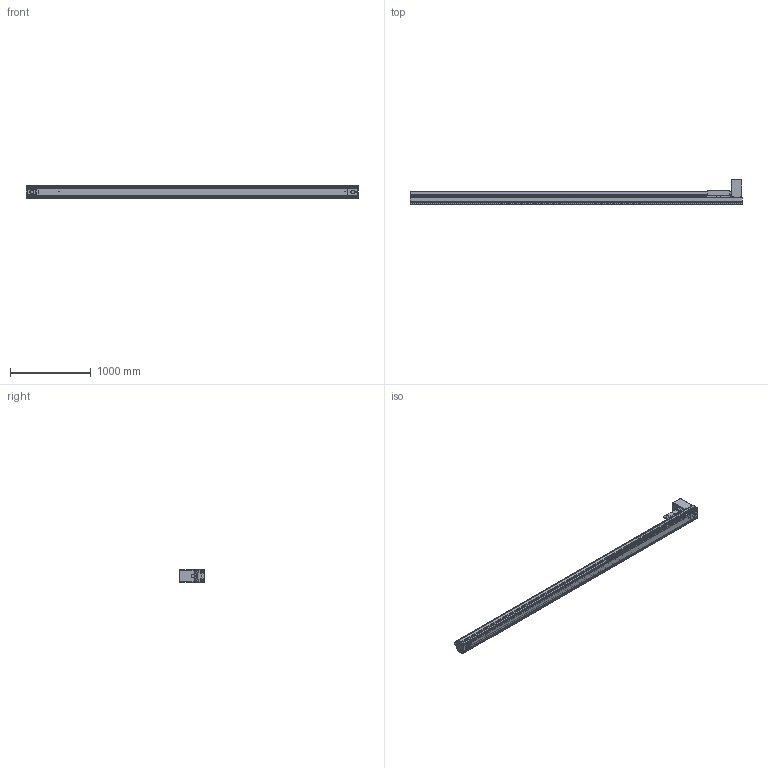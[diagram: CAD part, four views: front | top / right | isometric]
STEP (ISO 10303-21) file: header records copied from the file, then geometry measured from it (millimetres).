
FILE_DESCRIPTION((''),'2;1');
FILE_NAME('BE50G-BT-L19N-W55_IGS_PRT','2017-06-18T',(' '),(''),'PRO/ENGINEER BY PARAMETRIC TECHNOLOGY CORPORATION, 2015030','PRO/ENGINEER BY PARAMETRIC TECHNOLOGY CORPORATION, 2015030','');
FILE_SCHEMA(('CONFIG_CONTROL_DESIGN'));
Products named in the file (1): BE50G-BT-L19N-W55_IGS_PRT
Bounding box: 4120 x 309 x 160 mm (x, y, z)
Volume: 16672956.1 mm3; surface area: 8158646 mm2
Topology: 10 solids, 363 shells, 2311 faces, 7042 edges, 4811 vertices
Faces by surface type: cylinder 1357, plane 699, cone 212, sphere 23, torus 20
Entity records: 82985 total; most frequent: CARTESIAN_POINT 18985, DIRECTION 13437, ORIENTED_EDGE 12780, EDGE_CURVE 6968, AXIS2_PLACEMENT_3D 5133, VERTEX_POINT 4811, VECTOR 3171, LINE 3171
